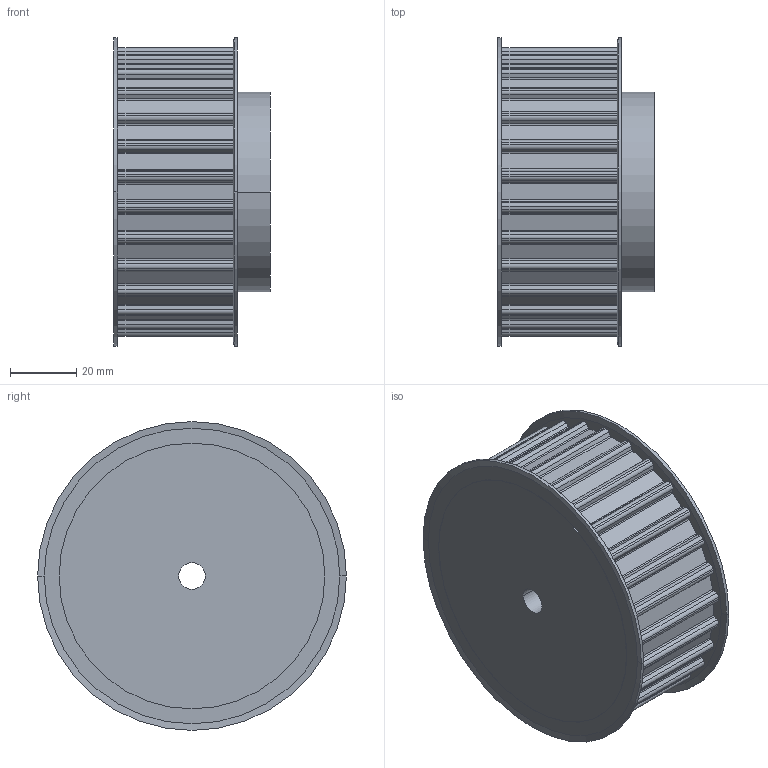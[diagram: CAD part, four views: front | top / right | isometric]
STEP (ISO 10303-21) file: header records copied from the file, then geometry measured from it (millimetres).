
FILE_DESCRIPTION( ( '' ), '1' );
FILE_NAME( 'C:/Users/Stangenbergd/Documents/CAD_Step/1/16842800.stp', '2021-10-19T09:47:18', ( '' ), ( '' ), ' ', ' ', ' ' );
FILE_SCHEMA( ( 'CONFIG_CONTROL_DESIGN' ) );
Length unit declared in the file: millimetre
Products named in the file (1): 1
Bounding box: 47.13 x 93 x 93 mm (x, y, z)
Volume: 234097.5 mm3; surface area: 31350.4 mm2
Topology: 1 solids, 1 shells, 251 faces, 724 edges, 480 vertices
Faces by surface type: cylinder 152, plane 91, cone 8
Entity records: 8414 total; most frequent: DIRECTION 1540, CARTESIAN_POINT 1456, ORIENTED_EDGE 1448, EDGE_CURVE 724, AXIS2_PLACEMENT_3D 564, VERTEX_POINT 480, LINE 412, VECTOR 412
